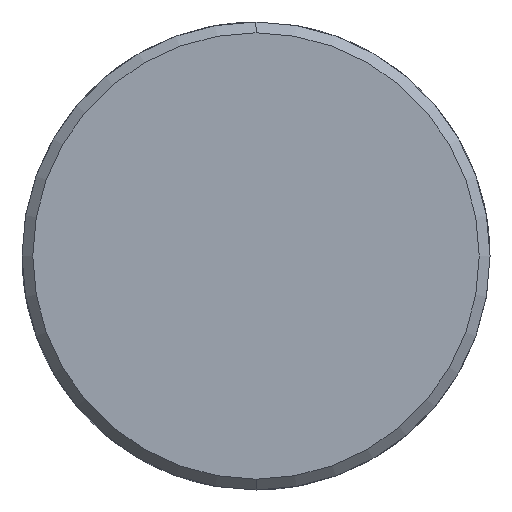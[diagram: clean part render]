
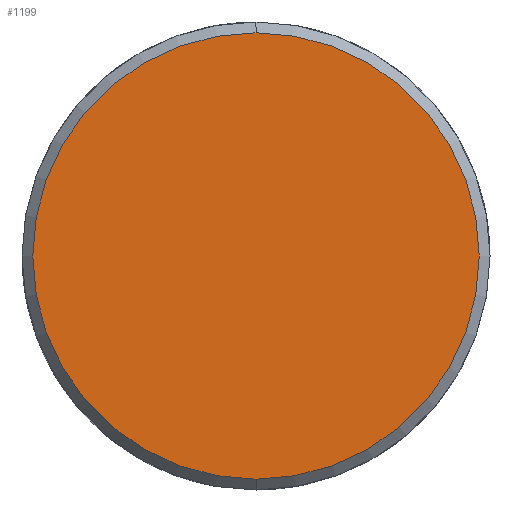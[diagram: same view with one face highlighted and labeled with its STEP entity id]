
A CAD part, left-side view. The second image highlights one B-rep face of the part: STEP entity #1199.
In plain terms, the highlighted planar face has unit normal (-1, 0, 0).
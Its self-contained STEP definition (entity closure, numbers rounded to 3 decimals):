
#1131=CARTESIAN_POINT('Vertex',(-10.,0.,-31.)) ;
#1134=CARTESIAN_POINT('Axis2P3D Location',(-10.,0.,0.)) ;
#1138=CARTESIAN_POINT('Vertex',(-10.,31.,0.)) ;
#1141=CARTESIAN_POINT('Axis2P3D Location',(-10.,0.,0.)) ;
#1145=CARTESIAN_POINT('Vertex',(-10.,0.,31.)) ;
#1167=CARTESIAN_POINT('Axis2P3D Location',(-10.,0.,0.)) ;
#1171=CARTESIAN_POINT('Vertex',(-10.,-31.,0.)) ;
#1174=CARTESIAN_POINT('Axis2P3D Location',(-10.,0.,0.)) ;
#1188=CARTESIAN_POINT('Axis2P3D Location',(-10.,0.,0.)) ;
#1135=DIRECTION('Axis2P3D Direction',(1.,0.,-0.)) ;
#1142=DIRECTION('Axis2P3D Direction',(1.,0.,-0.)) ;
#1168=DIRECTION('Axis2P3D Direction',(1.,0.,-0.)) ;
#1175=DIRECTION('Axis2P3D Direction',(1.,0.,-0.)) ;
#1189=DIRECTION('Axis2P3D Direction',(1.,0.,-0.)) ;
#1190=DIRECTION('Axis2P3D XDirection',(-0.,0.,-1.)) ;
#1136=AXIS2_PLACEMENT_3D('Circle Axis2P3D',#1134,#1135,$) ;
#1143=AXIS2_PLACEMENT_3D('Circle Axis2P3D',#1141,#1142,$) ;
#1169=AXIS2_PLACEMENT_3D('Circle Axis2P3D',#1167,#1168,$) ;
#1176=AXIS2_PLACEMENT_3D('Circle Axis2P3D',#1174,#1175,$) ;
#1191=AXIS2_PLACEMENT_3D('Plane Axis2P3D',#1188,#1189,#1190) ;
#1194=ORIENTED_EDGE('',*,*,#1140,.F.) ;
#1195=ORIENTED_EDGE('',*,*,#1178,.F.) ;
#1196=ORIENTED_EDGE('',*,*,#1173,.F.) ;
#1197=ORIENTED_EDGE('',*,*,#1147,.F.) ;
#1199=ADVANCED_FACE('351-50X126X280',(#1198),#1192,.F.) ;
#1137=CIRCLE('generated circle',#1136,31.) ;
#1144=CIRCLE('generated circle',#1143,31.) ;
#1170=CIRCLE('generated circle',#1169,31.) ;
#1177=CIRCLE('generated circle',#1176,31.) ;
#1140=EDGE_CURVE('',#1132,#1139,#1137,.T.) ;
#1147=EDGE_CURVE('',#1139,#1146,#1144,.T.) ;
#1173=EDGE_CURVE('',#1146,#1172,#1170,.T.) ;
#1178=EDGE_CURVE('',#1172,#1132,#1177,.T.) ;
#1193=EDGE_LOOP('',(#1194,#1195,#1196,#1197)) ;
#1198=FACE_OUTER_BOUND('',#1193,.T.) ;
#1192=PLANE('Plane',#1191) ;
#1132=VERTEX_POINT('',#1131) ;
#1139=VERTEX_POINT('',#1138) ;
#1146=VERTEX_POINT('',#1145) ;
#1172=VERTEX_POINT('',#1171) ;
